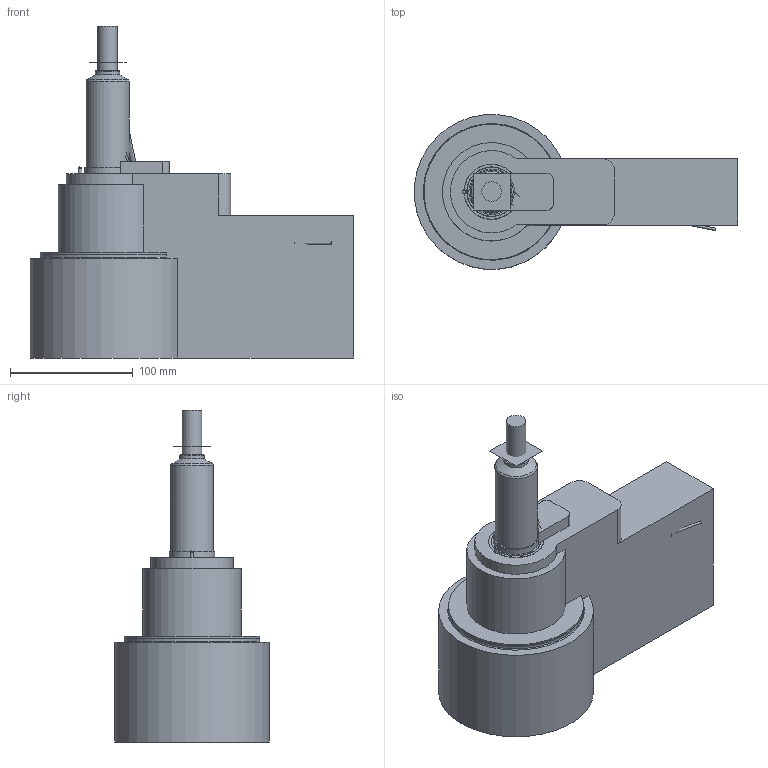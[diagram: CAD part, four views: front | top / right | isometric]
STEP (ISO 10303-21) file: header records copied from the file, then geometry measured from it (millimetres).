
FILE_DESCRIPTION (( 'STEP AP214' ), '1' );
FILE_NAME ('12SVP-06_VSP.STEP', '2020-11-16T10:02:07', ( '' ), ( '' ), 'SwSTEP 2.0', 'SolidWorks 2018', '' );
FILE_SCHEMA (( 'AUTOMOTIVE_DESIGN' ));
Length unit declared in the file: millimetre
Products named in the file (3): 12svp-06_cutout_VSP; nozzle_VSP; 12SVP-06_VSP
Assembly tree (2 placements, depth 2):
  12SVP-06_VSP
    12svp-06_cutout_VSP
    nozzle_VSP
Bounding box: 262.76 x 125.56 x 270 mm (x, y, z)
Volume: 1043849.6 mm3; surface area: 383623 mm2
Topology: 18 solids, 33 shells, 1690 faces, 4329 edges, 2836 vertices
Faces by surface type: plane 841, cylinder 347, bspline 336, cone 114, torus 48, sphere 4
Full cylindrical faces by diameter (mm): 1 x8, 2 x5, 2.3 x1, 2.5 x5, 3 x9, 3.301 x2, 3.4 x4, 3.9 x1, 4 x8, 4.1 x1, 4.2 x4, 4.3 x1, 4.5 x3, 5 x9, 5.5 x18, 5.998 x1, 6 x2, 6.5 x1, 7 x2, 8 x2, 8.5 x8, 9 x1, 10 x2, 10.1 x1, 10.376 x2, 11 x1, 16 x2, 20 x1, 21 x1, 24 x1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
Entity records: 88059 total; most frequent: CARTESIAN_POINT 50293, ORIENTED_EDGE 8056, DIRECTION 6416, EDGE_CURVE 4030, VERTEX_POINT 2737, AXIS2_PLACEMENT_3D 2207, EDGE_LOOP 2106, VECTOR 2002
